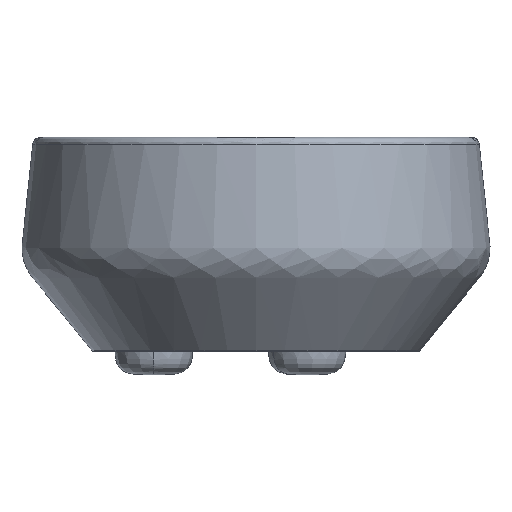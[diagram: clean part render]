
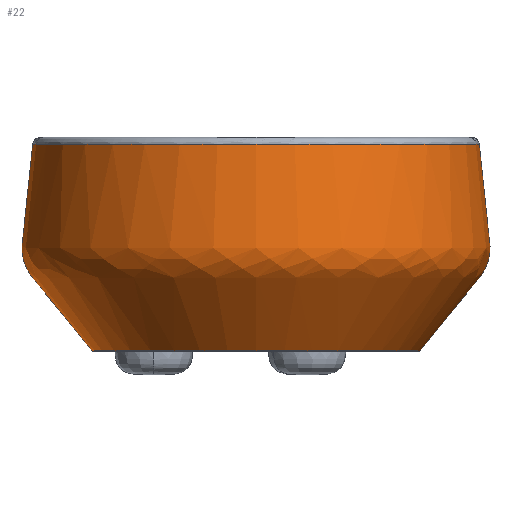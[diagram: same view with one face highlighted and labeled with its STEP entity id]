
A CAD part, left-side view. The second image highlights one B-rep face of the part: STEP entity #22.
In plain terms, the highlighted free-form (B-spline) face has degree [2, 2] with [5, 11] control points.
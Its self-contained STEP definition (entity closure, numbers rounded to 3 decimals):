
#22=ADVANCED_FACE('',(#43),#326,.T.);
#43=FACE_OUTER_BOUND('',#64,.T.);
#64=EDGE_LOOP('',(#98,#99,#100,#101));
#98=ORIENTED_EDGE('',*,*,#208,.T.);
#99=ORIENTED_EDGE('',*,*,#183,.F.);
#100=ORIENTED_EDGE('',*,*,#185,.F.);
#101=ORIENTED_EDGE('',*,*,#210,.F.);
#183=EDGE_CURVE('',#305,#312,#239,.T.);
#185=EDGE_CURVE('',#298,#305,#217,.T.);
#208=EDGE_CURVE('',#311,#312,#224,.T.);
#210=EDGE_CURVE('',#311,#298,#255,.T.);
#217=(
BOUNDED_CURVE()
B_SPLINE_CURVE(2,(#1100,#1101,#1102,#1103,#1104,#1105,#1106,#1107,#1108),
 .UNSPECIFIED.,.F.,.F.)
B_SPLINE_CURVE_WITH_KNOTS((3,2,2,2,3),(343.568,492.015,
499.551,547.256,688.225),.UNSPECIFIED.)
CURVE()
GEOMETRIC_REPRESENTATION_ITEM()
RATIONAL_B_SPLINE_CURVE((1.,1.,1.,0.99,0.982,0.934,
1.,1.,1.))
REPRESENTATION_ITEM('')
);
#224=(
BOUNDED_CURVE()
B_SPLINE_CURVE(2,(#1203,#1204,#1205,#1206,#1207,#1208,#1209,#1210,#1211),
 .UNSPECIFIED.,.F.,.F.)
B_SPLINE_CURVE_WITH_KNOTS((3,2,2,2,3),(343.568,492.015,
499.551,547.256,688.225),.UNSPECIFIED.)
CURVE()
GEOMETRIC_REPRESENTATION_ITEM()
RATIONAL_B_SPLINE_CURVE((1.,1.,1.,0.99,0.982,0.934,
1.,1.,1.))
REPRESENTATION_ITEM('')
);
#239=TRIMMED_CURVE($,#267,(#1095),(#1096),.T.,.CARTESIAN.);
#255=TRIMMED_CURVE($,#283,(#1216),(#1217),.T.,.CARTESIAN.);
#267=CIRCLE('',#438,245.289);
#283=CIRCLE('',#454,333.916);
#298=VERTEX_POINT('',#1035);
#305=VERTEX_POINT('',#1042);
#311=VERTEX_POINT('',#1048);
#312=VERTEX_POINT('',#1049);
#326=(
BOUNDED_SURFACE()
B_SPLINE_SURFACE(2,2,((#635,#636,#637,#638,#639,#640,#641,#642,#643,#644,
#645),(#646,#647,#648,#649,#650,#651,#652,#653,#654,#655,#656),(#657,#658,
#659,#660,#661,#662,#663,#664,#665,#666,#667),(#668,#669,#670,#671,#672,
#673,#674,#675,#676,#677,#678),(#679,#680,#681,#682,#683,#684,#685,#686,
#687,#688,#689)),.UNSPECIFIED.,.F.,.F.,.F.)
B_SPLINE_SURFACE_WITH_KNOTS((3,2,3),(3,2,2,2,2,3),(0.,549.649,
1099.299),(332.776,343.568,492.015,499.551,
547.256,689.175),.UNSPECIFIED.)
GEOMETRIC_REPRESENTATION_ITEM()
RATIONAL_B_SPLINE_SURFACE(((1.,1.,1.,1.,1.,0.99,0.982,
0.934,1.,1.,1.),(0.707,0.707,0.707,
0.707,0.707,0.7,0.694,
0.66,0.707,0.707,0.707),
(1.,1.,1.,1.,1.,0.99,0.982,0.934,1.,
1.,1.),(0.707,0.707,0.707,0.707,
0.707,0.7,0.694,0.66,
0.707,0.707,0.707),(1.,1.,1.,1.,1.,
0.99,0.982,0.934,1.,1.,1.)))
REPRESENTATION_ITEM('')
SURFACE()
);
#438=AXIS2_PLACEMENT_3D($,#1094,#482,#483);
#454=AXIS2_PLACEMENT_3D($,#1215,#514,#515);
#482=DIRECTION('',(0.,0.,-1.));
#483=DIRECTION('',(0.,-1.,0.));
#514=DIRECTION('',(0.,0.,1.));
#515=DIRECTION('',(0.,1.,0.));
#635=CARTESIAN_POINT('',(492.994,128.698,348.08));
#636=CARTESIAN_POINT('',(492.994,128.128,342.714));
#637=CARTESIAN_POINT('',(492.994,127.558,337.349));
#638=CARTESIAN_POINT('',(492.994,119.712,263.541));
#639=CARTESIAN_POINT('',(492.994,111.866,189.733));
#640=CARTESIAN_POINT('',(492.994,111.474,186.044));
#641=CARTESIAN_POINT('',(492.994,111.474,182.334));
#642=CARTESIAN_POINT('',(492.994,111.474,157.444));
#643=CARTESIAN_POINT('',(492.994,127.188,138.141));
#644=CARTESIAN_POINT('',(492.994,171.986,83.11));
#645=CARTESIAN_POINT('',(492.994,216.785,28.08));
#646=CARTESIAN_POINT('',(160.219,128.698,348.08));
#647=CARTESIAN_POINT('',(159.648,128.128,342.714));
#648=CARTESIAN_POINT('',(159.078,127.558,337.349));
#649=CARTESIAN_POINT('',(151.232,119.712,263.541));
#650=CARTESIAN_POINT('',(143.386,111.866,189.733));
#651=CARTESIAN_POINT('',(142.994,111.474,186.044));
#652=CARTESIAN_POINT('',(142.994,111.474,182.334));
#653=CARTESIAN_POINT('',(142.994,111.474,157.444));
#654=CARTESIAN_POINT('',(158.708,127.188,138.141));
#655=CARTESIAN_POINT('',(203.507,171.986,83.11));
#656=CARTESIAN_POINT('',(248.305,216.785,28.08));
#657=CARTESIAN_POINT('',(160.219,461.474,348.08));
#658=CARTESIAN_POINT('',(159.648,461.474,342.714));
#659=CARTESIAN_POINT('',(159.078,461.474,337.349));
#660=CARTESIAN_POINT('',(151.232,461.474,263.541));
#661=CARTESIAN_POINT('',(143.386,461.474,189.733));
#662=CARTESIAN_POINT('',(142.994,461.474,186.044));
#663=CARTESIAN_POINT('',(142.994,461.474,182.334));
#664=CARTESIAN_POINT('',(142.994,461.474,157.444));
#665=CARTESIAN_POINT('',(158.708,461.474,138.141));
#666=CARTESIAN_POINT('',(203.507,461.474,83.11));
#667=CARTESIAN_POINT('',(248.305,461.474,28.08));
#668=CARTESIAN_POINT('',(160.219,794.25,348.08));
#669=CARTESIAN_POINT('',(159.648,794.82,342.714));
#670=CARTESIAN_POINT('',(159.078,795.39,337.349));
#671=CARTESIAN_POINT('',(151.232,803.236,263.541));
#672=CARTESIAN_POINT('',(143.386,811.082,189.733));
#673=CARTESIAN_POINT('',(142.994,811.474,186.044));
#674=CARTESIAN_POINT('',(142.994,811.474,182.334));
#675=CARTESIAN_POINT('',(142.994,811.474,157.444));
#676=CARTESIAN_POINT('',(158.708,795.76,138.141));
#677=CARTESIAN_POINT('',(203.507,750.962,83.11));
#678=CARTESIAN_POINT('',(248.305,706.163,28.08));
#679=CARTESIAN_POINT('',(492.994,794.25,348.08));
#680=CARTESIAN_POINT('',(492.994,794.82,342.714));
#681=CARTESIAN_POINT('',(492.994,795.39,337.349));
#682=CARTESIAN_POINT('',(492.994,803.236,263.541));
#683=CARTESIAN_POINT('',(492.994,811.082,189.733));
#684=CARTESIAN_POINT('',(492.994,811.474,186.044));
#685=CARTESIAN_POINT('',(492.994,811.474,182.334));
#686=CARTESIAN_POINT('',(492.994,811.474,157.444));
#687=CARTESIAN_POINT('',(492.994,795.76,138.141));
#688=CARTESIAN_POINT('',(492.994,750.962,83.11));
#689=CARTESIAN_POINT('',(492.994,706.163,28.08));
#1035=CARTESIAN_POINT('',(492.994,127.558,337.349));
#1042=CARTESIAN_POINT('',(492.994,216.185,28.817));
#1048=CARTESIAN_POINT('',(492.994,795.39,337.349));
#1049=CARTESIAN_POINT('',(492.994,706.763,28.817));
#1094=CARTESIAN_POINT('',(492.994,461.474,28.817));
#1095=CARTESIAN_POINT('',(492.994,216.185,28.817));
#1096=CARTESIAN_POINT('',(492.994,706.763,28.817));
#1100=CARTESIAN_POINT('',(492.994,127.558,337.349));
#1101=CARTESIAN_POINT('',(492.994,119.712,263.541));
#1102=CARTESIAN_POINT('',(492.994,111.866,189.733));
#1103=CARTESIAN_POINT('',(492.994,111.474,186.044));
#1104=CARTESIAN_POINT('',(492.994,111.474,182.334));
#1105=CARTESIAN_POINT('',(492.994,111.474,157.444));
#1106=CARTESIAN_POINT('',(492.994,127.188,138.141));
#1107=CARTESIAN_POINT('',(492.994,171.686,83.479));
#1108=CARTESIAN_POINT('',(492.994,216.185,28.817));
#1203=CARTESIAN_POINT('',(492.994,795.39,337.349));
#1204=CARTESIAN_POINT('',(492.994,803.236,263.541));
#1205=CARTESIAN_POINT('',(492.994,811.082,189.733));
#1206=CARTESIAN_POINT('',(492.994,811.474,186.044));
#1207=CARTESIAN_POINT('',(492.994,811.474,182.334));
#1208=CARTESIAN_POINT('',(492.994,811.474,157.444));
#1209=CARTESIAN_POINT('',(492.994,795.76,138.141));
#1210=CARTESIAN_POINT('',(492.994,751.262,83.479));
#1211=CARTESIAN_POINT('',(492.994,706.763,28.817));
#1215=CARTESIAN_POINT('',(492.994,461.474,337.349));
#1216=CARTESIAN_POINT('',(492.994,795.39,337.349));
#1217=CARTESIAN_POINT('',(492.994,127.558,337.349));
